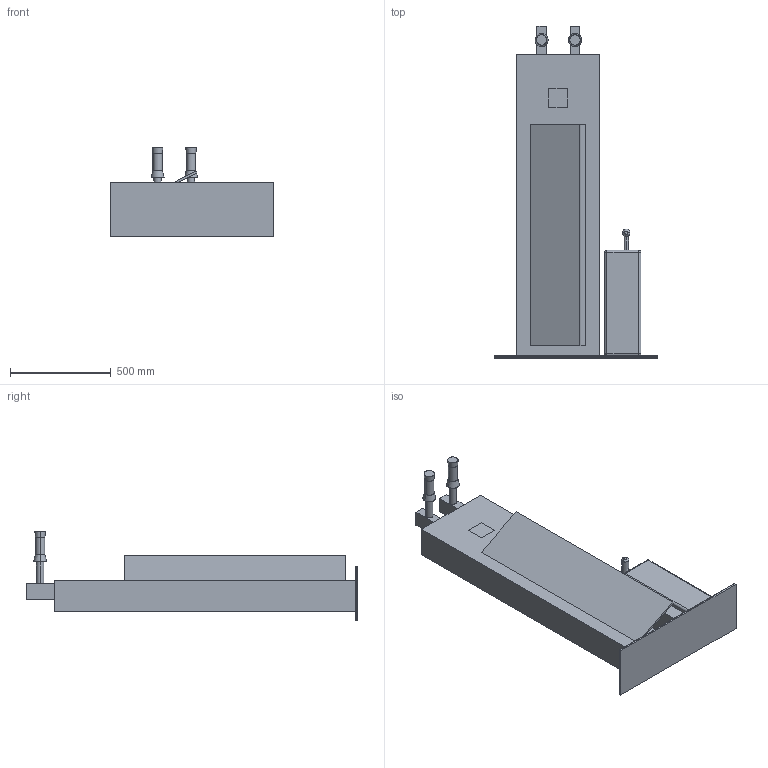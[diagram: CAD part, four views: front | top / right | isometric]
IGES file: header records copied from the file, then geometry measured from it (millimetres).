
Start section: SolidWorks IGES file using analytic representation for surfaces
Global section: file name: I:\(H)\3-(F) ALL MODEL 3D-PRICES\1-ALL MODEL 3D\16-WYF SPECIAL PRODUCTS\WYF1920\SOLID\WYF1920.IGS; native system: SolidWorks 2025; preprocessor: SolidWorks 2025; author: User; date: 251006.111121; units: millimetre
Bounding box: 811.84 x 1650 x 440.9 mm (x, y, z)
Surface area: 3858895.8 mm2 (no closed solid volume)
Topology: 0 solids, 0 shells, 107 faces, 1576 edges, 1575 vertices
Faces by surface type: bspline 63, revolution 44
